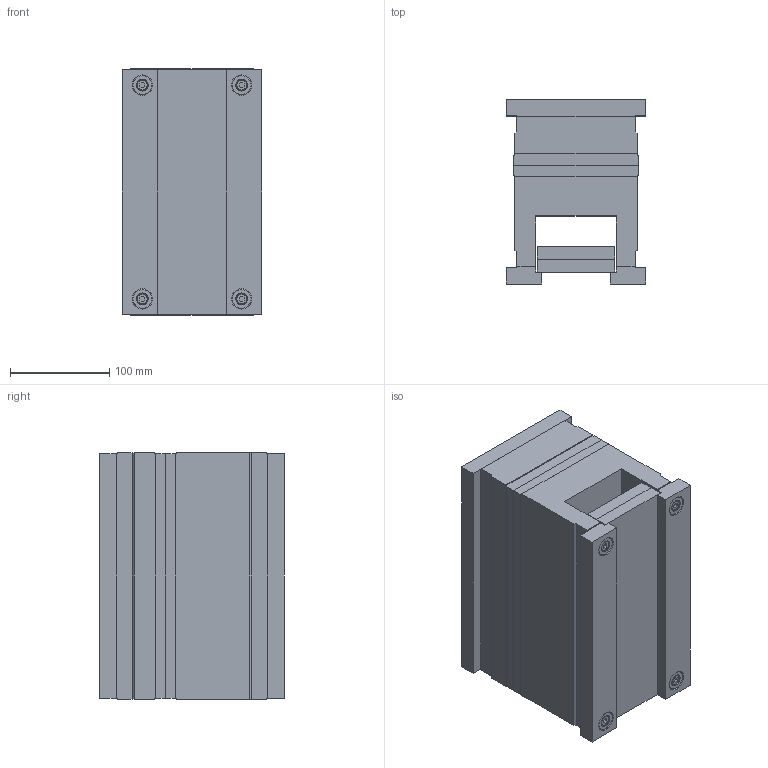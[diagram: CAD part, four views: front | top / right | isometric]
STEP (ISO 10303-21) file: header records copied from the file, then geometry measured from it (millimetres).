
FILE_DESCRIPTION (( 'STEP AP214' ), '1' );
FILE_NAME ('1254.STEP', '2002-07-10T07:48:32', ( 'Simcha Kilim' ), ( 'K. Plastics Engineering' ), 'SwSTEP 2.0', 'SolidWorks 2002025', '' );
FILE_SCHEMA (( 'AUTOMOTIVE_DESIGN' ));
Length unit declared in the file: millimetre
Products named in the file (12): 1254; ALMO (guide bush)_Ø11; ALMO (ejector plate)_1254; ALMO (guide pin)_Ø11; ALMO (ejector return plate)_1254; ALMO (ejector half)_1254; ALMO (hot half)_1254; ALMO (guide bush)_Ø10; ALMO (key plate)_Ø10; ALMO (guide pin)_Ø10; ALMO (screw)_M6x80; ALMO (screw)_M6x50
Assembly tree (28 placements, depth 2):
  1254
    ALMO (screw)_M6x50  x4
    ALMO (guide pin)_Ø10  x3
    ALMO (guide bush)_Ø10  x3
    ALMO (key plate)_Ø10  x8
    ALMO (ejector plate)_1254
    ALMO (screw)_M6x80  x4
    ALMO (ejector return plate)_1254
    ALMO (hot half)_1254
    ALMO (guide bush)_Ø11
    ALMO (ejector half)_1254
    ALMO (guide pin)_Ø11
Bounding box: 140 x 185.5 x 248 mm (x, y, z)
Volume: 4864705.5 mm3; surface area: 483231.2 mm2
Topology: 28 solids, 28 shells, 706 faces, 1496 edges, 924 vertices
Faces by surface type: cylinder 260, plane 254, cone 192
Entity records: 10477 total; most frequent: DIRECTION 1914, CARTESIAN_POINT 1683, ORIENTED_EDGE 1584, EDGE_CURVE 792, AXIS2_PLACEMENT_3D 729, VERTEX_POINT 498, LINE 456, VECTOR 456
